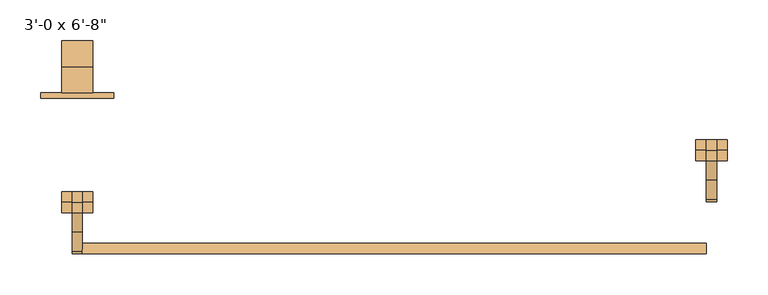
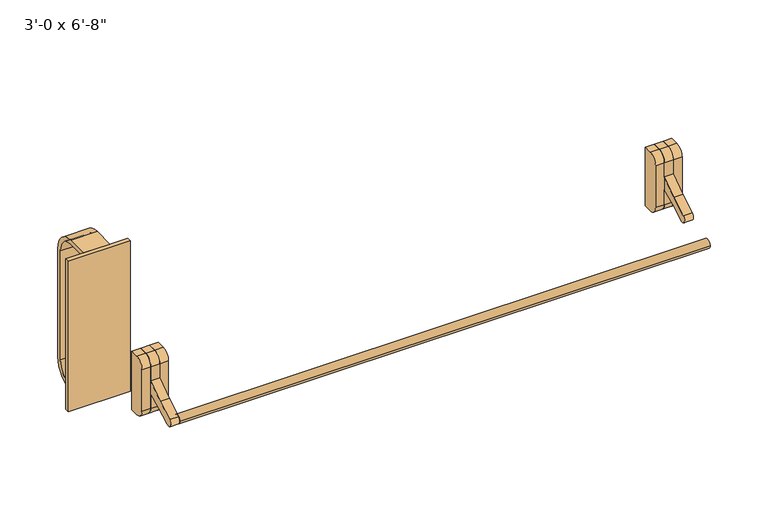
"""IFC4 building model written with IfcOpenShell, lengths in millimetres: door geometry."""

from ifc_helpers import new_model, si_unit, point, frame, frame_2d, origin, place, context, project, spatial, polyline, circle_curve, trimmed, segment, composite_curve, outline, extrude, source, transform, mapped, element, save


def door_4acad3c3(model_context):
    return source(origin(), model_context, "Body", "SweptSolid", [
        extrude(outline(composite_curve([segment(polyline([(57.15, 907.9008138), (88.9, 907.9008138)]), True, "CONTINUOUS"), segment(trimmed(circle_curve(frame_2d((88.9, 933.3008138)), 25.4), [point((88.9, 907.9008138))], [point((114.3, 933.3008138))], True, "CARTESIAN"), True, "CONTINUOUS"), segment(polyline([(114.3, 933.3008138), (114.3, 1098.4008138)]), True, "CONTINUOUS"), segment(trimmed(circle_curve(frame_2d((88.9, 1098.4008138)), 25.4), [point((114.3, 1098.4008138))], [point((88.9, 1123.8008138))], True, "CARTESIAN"), True, "CONTINUOUS"), segment(polyline([(88.9, 1123.8008138), (57.15, 1123.8008138), (57.15, 1130.1508138), (88.9, 1130.1508138)]), True, "CONTINUOUS"), segment(trimmed(circle_curve(frame_2d((88.9, 1098.4008138)), 31.75), [point((88.9, 1130.1508138))], [point((120.65, 1098.4008138))], False, "CARTESIAN"), True, "CONTINUOUS"), segment(polyline([(120.65, 1098.4008138), (120.65, 933.3008138)]), True, "CONTINUOUS"), segment(trimmed(circle_curve(frame_2d((88.9, 933.3008138)), 31.75), [point((120.65, 933.3008138))], [point((88.9, 901.5508138))], False, "CARTESIAN"), True, "CONTINUOUS"), segment(polyline([(88.9, 901.5508138), (57.15, 901.5508138), (57.15, 907.9008138)]), True, "CONTINUOUS")], self_intersect=False)), frame((-406.2508138, 0.0, 0.0), z_axis=(1.0, 0.0, 0.0), x_axis=(0.0, 1.0, 0.0)), (0.0, 0.0, 1.0), 38.1),
        extrude(outline(composite_curve([segment(polyline([(57.15, 1022.2008138), (57.15, 1028.5508138), (74.2750827, 1018.6636427)]), True, "CONTINUOUS"), segment(trimmed(circle_curve(frame_2d((69.3996628, 1010.1946873)), 9.7720481), [point((74.2750827, 1018.6636427))], [point((79.1470453, 1009.5008138))], False, "CARTESIAN"), True, "CONTINUOUS"), segment(polyline([(79.1470453, 1009.5008138), (57.15, 1022.2008138)]), True, "CONTINUOUS")], self_intersect=False)), frame((-406.2508138, 0.0, 0.0), z_axis=(1.0, 0.0, 0.0), x_axis=(0.0, 1.0, 0.0)), (0.0, 0.0, 1.0), 38.1),
        extrude(outline(polyline([(-431.6508138, 57.15), (-342.7508138, 57.15), (-342.7508138, 50.8), (-431.6508138, 50.8), (-431.6508138, 57.15)])), frame((0.0, 0.0, 901.5508138), z_axis=(0.0, 0.0, 1.0), x_axis=(1.0, 0.0, 0.0)), (0.0, 0.0, 1.0), 228.6),
        extrude(outline(composite_curve([segment(trimmed(circle_curve(frame_2d((-132.8940905, 984.25)), 6.35), [point((-126.5440905, 984.25))], [point((-139.2440905, 984.25))], False, "CARTESIAN"), True, "CONTINUOUS"), segment(trimmed(circle_curve(frame_2d((-132.8940905, 984.25)), 6.35), [point((-139.2440905, 984.25))], [point((-126.5440905, 984.25))], False, "CARTESIAN"), True, "CONTINUOUS")], self_intersect=False)), frame((-381.0, 0.0, 0.0), z_axis=(1.0, 0.0, 0.0), x_axis=(0.0, 1.0, 0.0)), (0.0, 0.0, 1.0), 762.0),
        extrude(outline(composite_curve([segment(polyline([(0.0, 1054.1), (0.0, 965.2), (-12.7, 965.2)]), True, "CONTINUOUS"), segment(trimmed(circle_curve(frame_2d((-12.7, 977.9)), 12.7), [point((-12.7, 965.2))], [point((-25.4, 977.9))], False, "CARTESIAN"), True, "CONTINUOUS"), segment(polyline([(-25.4, 977.9), (-25.4, 1000.0513224), (-45.8095453, 990.5341951), (-66.2190905, 978.7507387)]), True, "CONTINUOUS"), segment(trimmed(circle_curve(frame_2d((-69.3940905, 984.25)), 6.35), [point((-66.2190905, 978.7507387))], [point((-72.5690905, 989.7492613))], False, "CARTESIAN"), True, "CONTINUOUS"), segment(polyline([(-72.5690905, 989.7492613), (-48.9845453, 1003.3658049), (-25.4, 1019.8798812), (-25.4, 1041.4)]), True, "CONTINUOUS"), segment(trimmed(circle_curve(frame_2d((-12.7, 1041.4)), 12.7), [point((-25.4, 1041.4))], [point((-12.7, 1054.1))], False, "CARTESIAN"), True, "CONTINUOUS"), segment(polyline([(-12.7, 1054.1), (0.0, 1054.1)]), True, "CONTINUOUS")], self_intersect=False)), frame((381.0, 0.0, 0.0), z_axis=(1.0, 0.0, 0.0), x_axis=(0.0, 1.0, 0.0)), (0.0, 0.0, 1.0), 12.7),
        extrude(outline(composite_curve([segment(polyline([(-12.7, 1054.1), (0.0, 1054.1), (0.0, 965.2), (-12.7, 965.2)]), True, "CONTINUOUS"), segment(trimmed(circle_curve(frame_2d((-12.7, 977.9)), 12.7), [point((-12.7, 965.2))], [point((-25.4, 977.9))], False, "CARTESIAN"), True, "CONTINUOUS"), segment(polyline([(-25.4, 977.9), (-25.4, 1041.4)]), True, "CONTINUOUS"), segment(trimmed(circle_curve(frame_2d((-12.7, 1041.4)), 12.7), [point((-25.4, 1041.4))], [point((-12.7, 1054.1))], False, "CARTESIAN"), True, "CONTINUOUS")], self_intersect=False)), frame((393.7, 0.0, 0.0), z_axis=(1.0, 0.0, 0.0), x_axis=(0.0, 1.0, 0.0)), (0.0, 0.0, 1.0), 12.7),
        extrude(outline(composite_curve([segment(polyline([(-12.7, 1054.1), (0.0, 1054.1), (0.0, 965.2), (-12.7, 965.2)]), True, "CONTINUOUS"), segment(trimmed(circle_curve(frame_2d((-12.7, 977.9)), 12.7), [point((-12.7, 965.2))], [point((-25.4, 977.9))], False, "CARTESIAN"), True, "CONTINUOUS"), segment(polyline([(-25.4, 977.9), (-25.4, 1041.4)]), True, "CONTINUOUS"), segment(trimmed(circle_curve(frame_2d((-12.7, 1041.4)), 12.7), [point((-25.4, 1041.4))], [point((-12.7, 1054.1))], False, "CARTESIAN"), True, "CONTINUOUS")], self_intersect=False)), frame((368.3, 0.0, 0.0), z_axis=(1.0, 0.0, 0.0), x_axis=(0.0, 1.0, 0.0)), (0.0, 0.0, 1.0), 12.7),
        extrude(outline(composite_curve([segment(polyline([(-63.5, 1054.1), (-63.5, 965.2), (-76.2, 965.2)]), True, "CONTINUOUS"), segment(trimmed(circle_curve(frame_2d((-76.2, 977.9)), 12.7), [point((-76.2, 965.2))], [point((-88.9, 977.9))], False, "CARTESIAN"), True, "CONTINUOUS"), segment(polyline([(-88.9, 977.9), (-88.9, 1000.0513224), (-109.3095453, 990.5341951), (-129.7190905, 978.7507387)]), True, "CONTINUOUS"), segment(trimmed(circle_curve(frame_2d((-132.8940905, 984.25)), 6.35), [point((-129.7190905, 978.7507387))], [point((-136.0690905, 989.7492613))], False, "CARTESIAN"), True, "CONTINUOUS"), segment(polyline([(-136.0690905, 989.7492613), (-112.4845453, 1003.3658049), (-88.9, 1019.8798812), (-88.9, 1041.4)]), True, "CONTINUOUS"), segment(trimmed(circle_curve(frame_2d((-76.2, 1041.4)), 12.7), [point((-88.9, 1041.4))], [point((-76.2, 1054.1))], False, "CARTESIAN"), True, "CONTINUOUS"), segment(polyline([(-76.2, 1054.1), (-63.5, 1054.1)]), True, "CONTINUOUS")], self_intersect=False)), frame((-393.7, 0.0, 0.0), z_axis=(1.0, 0.0, 0.0), x_axis=(0.0, 1.0, 0.0)), (0.0, 0.0, 1.0), 12.7),
        extrude(outline(composite_curve([segment(polyline([(-76.2, 1054.1), (-63.5, 1054.1), (-63.5, 965.2), (-76.2, 965.2)]), True, "CONTINUOUS"), segment(trimmed(circle_curve(frame_2d((-76.2, 977.9)), 12.7), [point((-76.2, 965.2))], [point((-88.9, 977.9))], False, "CARTESIAN"), True, "CONTINUOUS"), segment(polyline([(-88.9, 977.9), (-88.9, 1041.4)]), True, "CONTINUOUS"), segment(trimmed(circle_curve(frame_2d((-76.2, 1041.4)), 12.7), [point((-88.9, 1041.4))], [point((-76.2, 1054.1))], False, "CARTESIAN"), True, "CONTINUOUS")], self_intersect=False)), frame((-381.0, 0.0, 0.0), z_axis=(1.0, 0.0, 0.0), x_axis=(0.0, 1.0, 0.0)), (0.0, 0.0, 1.0), 12.7),
        extrude(outline(composite_curve([segment(polyline([(-76.2, 1054.1), (-63.5, 1054.1), (-63.5, 965.2), (-76.2, 965.2)]), True, "CONTINUOUS"), segment(trimmed(circle_curve(frame_2d((-76.2, 977.9)), 12.7), [point((-76.2, 965.2))], [point((-88.9, 977.9))], False, "CARTESIAN"), True, "CONTINUOUS"), segment(polyline([(-88.9, 977.9), (-88.9, 1041.4)]), True, "CONTINUOUS"), segment(trimmed(circle_curve(frame_2d((-76.2, 1041.4)), 12.7), [point((-88.9, 1041.4))], [point((-76.2, 1054.1))], False, "CARTESIAN"), True, "CONTINUOUS")], self_intersect=False)), frame((-406.4, 0.0, 0.0), z_axis=(1.0, 0.0, 0.0), x_axis=(0.0, 1.0, 0.0)), (0.0, 0.0, 1.0), 12.7),
    ])


if __name__ == "__main__":
    model = new_model("IFC4")
    model_context = context("Model", 3, world=origin())
    ifc_project = project(units=[si_unit("LENGTHUNIT", "METRE", prefix="MILLI")], contexts=[model_context])
    site = spatial("IfcSite", under=ifc_project)
    building = spatial("IfcBuilding", under=site)
    placement = place(None, origin())
    door_shape = door_4acad3c3(model_context)
    element("IfcDoor", 1, ObjectType="Planitar - Single Door : 3'-0 x 6'-8\"", at=placement, inside=building, context=model_context, shape_type="MappedRepresentation", body=[
        mapped(door_shape, transform((0.0, 0.0, 0.0), x_axis=(1.0, 0.0, 0.0), y_axis=(0.0, 1.0, 0.0), z_axis=(0.0, 0.0, 1.0))),
    ])
    save(model, "model.ifc")
